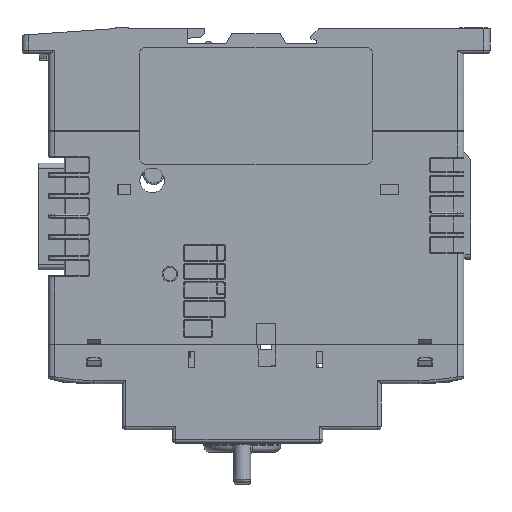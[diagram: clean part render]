
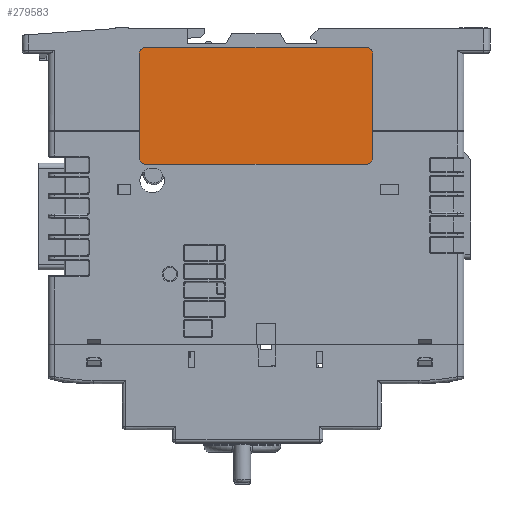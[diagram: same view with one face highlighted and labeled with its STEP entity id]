
A CAD part, left-side view. The second image highlights one B-rep face of the part: STEP entity #279583.
In plain terms, the highlighted planar face has unit normal (-1, 0, 0) as drawn and (0, 0, 1) by its records, which use the part's own axes.
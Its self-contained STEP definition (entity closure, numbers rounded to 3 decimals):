
#279301=CARTESIAN_POINT('',(-15.5,33.,0.5));
#279302=DIRECTION('',(0.,0.,-1.));
#279303=DIRECTION('',(-1.,0.,0.));
#279304=AXIS2_PLACEMENT_3D('',#279301,#279302,#279303);
#279306=DIRECTION('',(1.,0.,0.));
#279307=VECTOR('',#279306,31.);
#279308=CARTESIAN_POINT('',(-15.5,35.,0.5));
#279309=LINE('',#279308,#279307);
#279310=CARTESIAN_POINT('',(15.5,33.,0.5));
#279311=DIRECTION('',(0.,0.,-1.));
#279312=DIRECTION('',(0.,1.,0.));
#279313=AXIS2_PLACEMENT_3D('',#279310,#279311,#279312);
#279315=DIRECTION('',(0.,-1.,0.));
#279316=VECTOR('',#279315,66.);
#279317=CARTESIAN_POINT('',(17.5,33.,0.5));
#279318=LINE('',#279317,#279316);
#279319=CARTESIAN_POINT('',(15.5,-33.,0.5));
#279320=DIRECTION('',(0.,0.,-1.));
#279321=DIRECTION('',(1.,0.,0.));
#279322=AXIS2_PLACEMENT_3D('',#279319,#279320,#279321);
#279324=DIRECTION('',(-1.,0.,0.));
#279325=VECTOR('',#279324,31.);
#279326=CARTESIAN_POINT('',(15.5,-35.,0.5));
#279327=LINE('',#279326,#279325);
#279328=CARTESIAN_POINT('',(-15.5,-33.,0.5));
#279329=DIRECTION('',(0.,0.,-1.));
#279330=DIRECTION('',(0.,-1.,0.));
#279331=AXIS2_PLACEMENT_3D('',#279328,#279329,#279330);
#279333=DIRECTION('',(0.,1.,0.));
#279334=VECTOR('',#279333,66.);
#279335=CARTESIAN_POINT('',(-17.5,-33.,0.5));
#279336=LINE('',#279335,#279334);
#279353=CARTESIAN_POINT('',(-15.5,35.,0.5));
#279354=VERTEX_POINT('',#279353);
#279355=CARTESIAN_POINT('',(-17.5,33.,0.5));
#279356=VERTEX_POINT('',#279355);
#279357=CARTESIAN_POINT('',(15.5,35.,0.5));
#279358=VERTEX_POINT('',#279357);
#279359=CARTESIAN_POINT('',(17.5,33.,0.5));
#279360=VERTEX_POINT('',#279359);
#279361=CARTESIAN_POINT('',(17.5,-33.,0.5));
#279362=VERTEX_POINT('',#279361);
#279363=CARTESIAN_POINT('',(15.5,-35.,0.5));
#279364=VERTEX_POINT('',#279363);
#279365=CARTESIAN_POINT('',(-15.5,-35.,0.5));
#279366=VERTEX_POINT('',#279365);
#279367=CARTESIAN_POINT('',(-17.5,-33.,0.5));
#279368=VERTEX_POINT('',#279367);
#279568=CARTESIAN_POINT('',(0.,0.,0.5));
#279569=DIRECTION('',(0.,0.,1.));
#279570=DIRECTION('',(1.,0.,0.));
#279571=AXIS2_PLACEMENT_3D('',#279568,#279569,#279570);
#279572=PLANE('',#279571);
#279573=ORIENTED_EDGE('',*,*,#279408,.T.);
#279574=ORIENTED_EDGE('',*,*,#279430,.T.);
#279575=ORIENTED_EDGE('',*,*,#279451,.T.);
#279576=ORIENTED_EDGE('',*,*,#279472,.T.);
#279577=ORIENTED_EDGE('',*,*,#279493,.T.);
#279578=ORIENTED_EDGE('',*,*,#279514,.T.);
#279579=ORIENTED_EDGE('',*,*,#279535,.T.);
#279580=ORIENTED_EDGE('',*,*,#279555,.T.);
#279581=EDGE_LOOP('',(#279573,#279574,#279575,#279576,#279577,#279578,#279579,
#279580));
#279582=FACE_OUTER_BOUND('',#279581,.F.);
#279583=ADVANCED_FACE('',(#279582),#279572,.T.);
#279305=CIRCLE('',#279304,2.);
#279314=CIRCLE('',#279313,2.);
#279323=CIRCLE('',#279322,2.);
#279332=CIRCLE('',#279331,2.);
#279408=EDGE_CURVE('',#279356,#279354,#279305,.T.);
#279430=EDGE_CURVE('',#279354,#279358,#279309,.T.);
#279451=EDGE_CURVE('',#279358,#279360,#279314,.T.);
#279472=EDGE_CURVE('',#279360,#279362,#279318,.T.);
#279493=EDGE_CURVE('',#279362,#279364,#279323,.T.);
#279514=EDGE_CURVE('',#279364,#279366,#279327,.T.);
#279535=EDGE_CURVE('',#279366,#279368,#279332,.T.);
#279555=EDGE_CURVE('',#279368,#279356,#279336,.T.);
